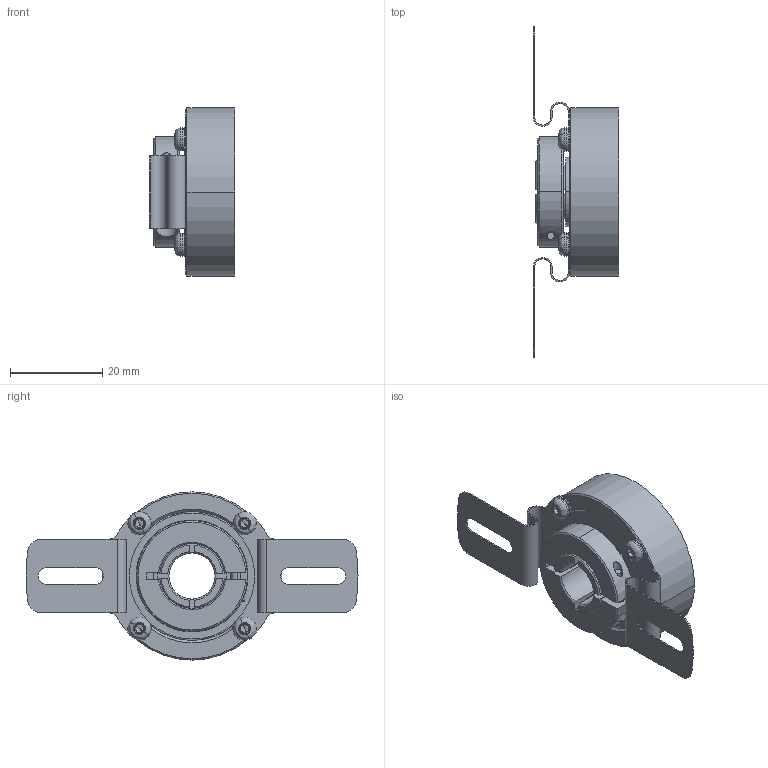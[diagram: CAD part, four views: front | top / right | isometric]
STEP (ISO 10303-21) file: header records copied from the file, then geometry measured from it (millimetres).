
FILE_DESCRIPTION (( 'STEP AP214' ), '1' );
FILE_NAME ('drawing-ucd-vab0-q3a-n.STEP', '2017-01-19T10:12:41', ( '' ), ( '' ), 'SwSTEP 2.0', 'SolidWorks 2015', '' );
FILE_SCHEMA (( 'AUTOMOTIVE_DESIGN' ));
Length unit declared in the file: millimetre
Products named in the file (1): drawing-ucd-vab0-q3a-n
Bounding box: 18.5 x 72 x 36.5 mm (x, y, z)
Volume: 10467.7 mm3; surface area: 15299.3 mm2
Topology: 23 solids, 23 shells, 576 faces, 1476 edges, 899 vertices
Faces by surface type: cylinder 193, plane 149, cone 122, bspline 108, torus 4
Entity records: 27216 total; most frequent: CARTESIAN_POINT 7363, ORIENTED_EDGE 2808, DIRECTION 2766, EDGE_CURVE 1404, AXIS2_PLACEMENT_3D 1176, VERTEX_POINT 899, CIRCLE 707, EDGE_LOOP 647
